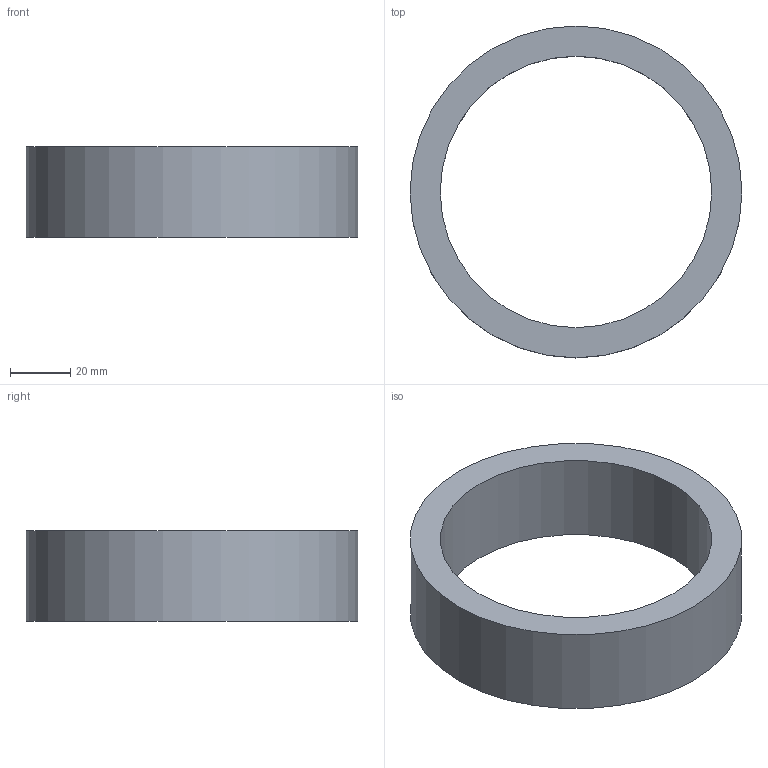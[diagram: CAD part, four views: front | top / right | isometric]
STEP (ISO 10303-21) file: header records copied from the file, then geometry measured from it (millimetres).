
FILE_DESCRIPTION(('Open CASCADE Model'),'2;1');
FILE_NAME('Open CASCADE Shape Model','2026-09-07T11:14:25',('Author'),( 'Open CASCADE'),'Open CASCADE STEP processor 7.9','Open CASCADE 7.9' ,'Unknown');
FILE_SCHEMA(('AUTOMOTIVE_DESIGN { 1 0 10303 214 1 1 1 1 }'));
Length unit declared in the file: millimetre
Products named in the file (1): Open CASCADE STEP translator 7.9 25
Bounding box: 110 x 110 x 30 mm (x, y, z)
Volume: 94247.8 mm3; surface area: 25132.7 mm2
Topology: 1 solids, 1 shells, 4 faces, 6 edges, 4 vertices
Faces by surface type: cylinder 2, plane 2
Full cylindrical faces by diameter (mm): 90 x1, 110 x1
Entity records: 186 total; most frequent: DIRECTION 32, CARTESIAN_POINT 27, ORIENTED_EDGE 12, PCURVE 12, DEFINITIONAL_REPRESENTATION 12, LINE 10, VECTOR 10, AXIS2_PLACEMENT_3D 9
